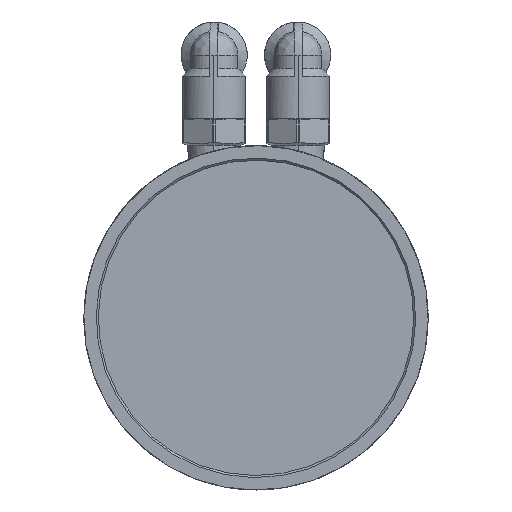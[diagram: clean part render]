
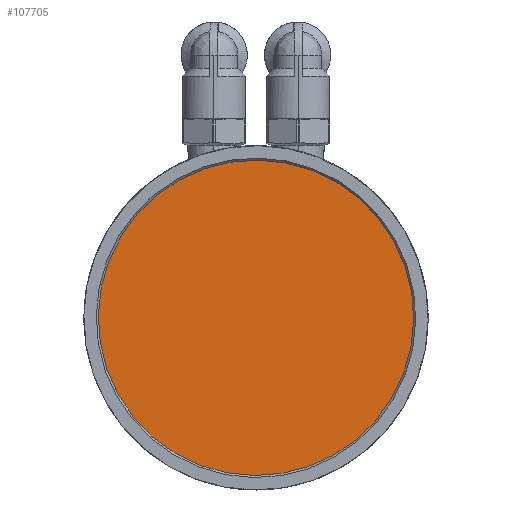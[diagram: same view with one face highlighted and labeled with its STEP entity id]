
A CAD part, front view. The second image highlights one B-rep face of the part: STEP entity #107705.
In plain terms, the highlighted planar face has unit normal (0, -1, 0).
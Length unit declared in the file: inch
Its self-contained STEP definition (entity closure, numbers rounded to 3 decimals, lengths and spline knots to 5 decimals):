
#1376 = EDGE_CURVE ( 'Defeatured_13365+Defeatured_13363+Defeatured_13363+Defeatured_13363', #69175, #77654, #101046, .T. ) ;
#3661 = CARTESIAN_POINT ( 'NONE',  ( 0., -3.526, 0. ) ) ;
#6033 = DIRECTION ( 'NONE',  ( 0.874, 0., 0.486 ) ) ;
#6851 = ORIENTED_EDGE ( 'NONE', *, *, #85463, .F. ) ;
#9599 = EDGE_LOOP ( 'NONE', ( #92552, #6851 ) ) ;
#10734 = AXIS2_PLACEMENT_3D ( 'NONE', #3661, #97635, #21194 ) ;
#18211 = CARTESIAN_POINT ( 'NONE',  ( 1.02444, -3.526, 0.57032 ) ) ;
#21194 = DIRECTION ( 'NONE',  ( 0., 0., 1. ) ) ;
#38592 = DIRECTION ( 'NONE',  ( 0., 1., 0. ) ) ;
#40225 = CARTESIAN_POINT ( 'NONE',  ( 0., -3.526, 0. ) ) ;
#47924 = AXIS2_PLACEMENT_3D ( 'NONE', #40225, #38592, #58136 ) ;
#58136 = DIRECTION ( 'NONE',  ( 0.874, 0., 0.486 ) ) ;
#64769 = CIRCLE ( 'NONE', #47924, 1.1725 ) ;
#67714 = AXIS2_PLACEMENT_3D ( 'NONE', #73362, #82938, #6033 ) ;
#69175 = VERTEX_POINT ( 'NONE', #113496 ) ;
#73362 = CARTESIAN_POINT ( 'NONE',  ( 0., -3.526, 0. ) ) ;
#77654 = VERTEX_POINT ( 'NONE', #18211 ) ;
#82938 = DIRECTION ( 'NONE',  ( 0., 1., 0. ) ) ;
#84736 = FACE_OUTER_BOUND ( 'NONE', #9599, .T. ) ;
#85463 = EDGE_CURVE ( 'Defeatured_13365+Defeatured_13363+Defeatured_13363+Defeatured_13363', #77654, #69175, #64769, .T. ) ;
#92552 = ORIENTED_EDGE ( 'NONE', *, *, #1376, .F. ) ;
#97635 = DIRECTION ( 'NONE',  ( 0., 1., 0. ) ) ;
#101046 = CIRCLE ( 'NONE', #67714, 1.1725 ) ;
#107705 = ADVANCED_FACE ( 'Defeatured_13363', ( #84736 ), #116321, .F. ) ;
#113496 = CARTESIAN_POINT ( 'NONE',  ( -1.02444, -3.526, -0.57032 ) ) ;
#116321 = PLANE ( 'NONE',  #10734 ) ;
